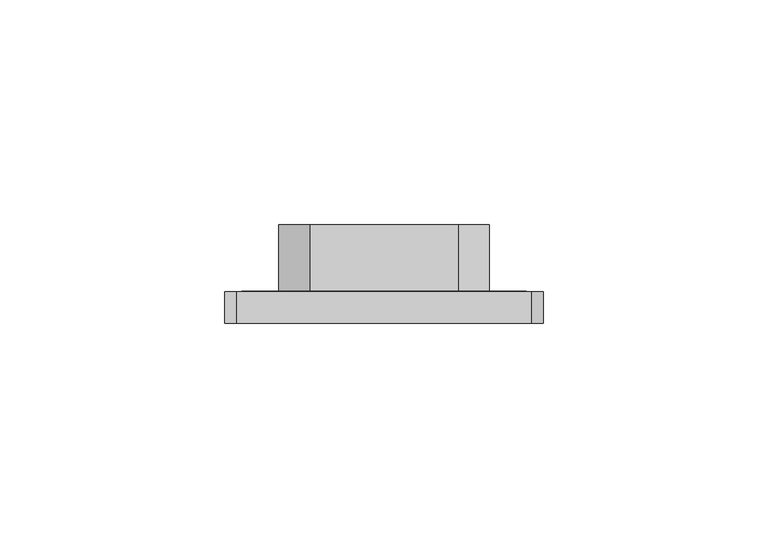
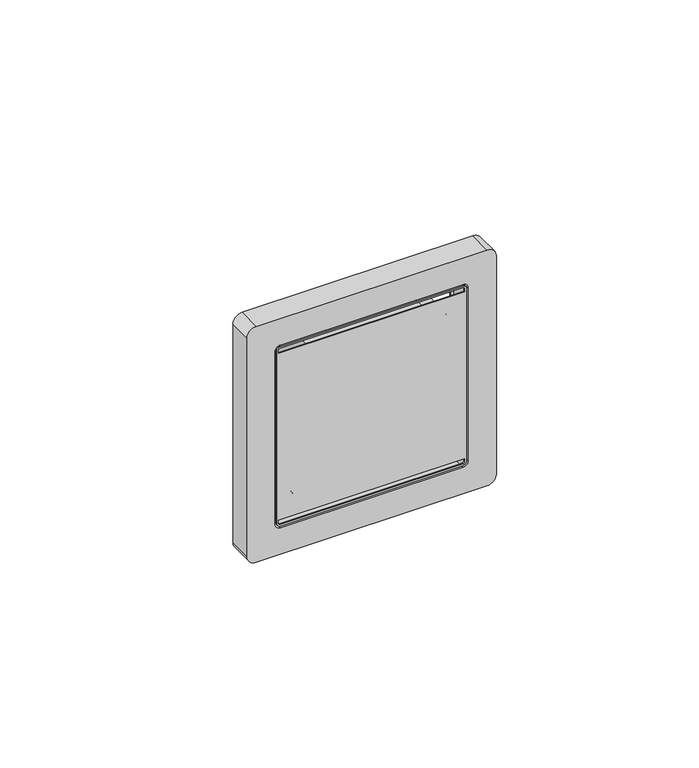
"""IFC4 building model written with IfcOpenShell, lengths in millimetres: proxy geometry, KNX AQS-TH-UP gl : KNX AQS/TH-UP gl, reinweiß RAL 9010."""

from ifc_helpers import new_model, si_unit, point, frame, frame_2d, origin, place, context, project, spatial, polyline, circle_curve, trimmed, segment, composite_curve, outline, extrude, source, transform, mapped, element, save


def electrical_fixtures_9fe67a85(model_context):
    return source(origin(), model_context, "Body", "SweptSolid", [
        extrude(outline(composite_curve([segment(trimmed(circle_curve(frame_2d((68.3993065, -32.8993065)), 2.6006935), [point((71.0, -32.8993065))], [point((68.3993065, -35.5))], False, "CARTESIAN"), True, "CONTINUOUS"), segment(polyline([(68.3993065, -35.5), (2.6006935, -35.5)]), True, "CONTINUOUS"), segment(trimmed(circle_curve(frame_2d((2.6006935, -32.8993065)), 2.6006935), [point((2.6006935, -35.5))], [point((0.0, -32.8993065))], False, "CARTESIAN"), True, "CONTINUOUS"), segment(polyline([(0.0, -32.8993065), (0.0, 32.8993065)]), True, "CONTINUOUS"), segment(trimmed(circle_curve(frame_2d((2.6006935, 32.8993065)), 2.6006935), [point((0.0, 32.8993065))], [point((2.6006935, 35.5))], False, "CARTESIAN"), True, "CONTINUOUS"), segment(polyline([(2.6006935, 35.5), (68.3993065, 35.5)]), True, "CONTINUOUS"), segment(trimmed(circle_curve(frame_2d((68.3993065, 32.8993065)), 2.6006935), [point((68.3993065, 35.5))], [point((71.0, 32.8993065))], False, "CARTESIAN"), True, "CONTINUOUS"), segment(polyline([(71.0, 32.8993065), (71.0, -32.8993065)]), True, "CONTINUOUS")], self_intersect=False), holes=[composite_curve([segment(polyline([(63.0, -25.9768966), (63.0, 25.9768966)]), True, "CONTINUOUS"), segment(trimmed(circle_curve(frame_2d((61.4768966, 25.9768966)), 1.5231034), [point((63.0, 25.9768966))], [point((61.4768966, 27.5))], True, "CARTESIAN"), True, "CONTINUOUS"), segment(polyline([(61.4768966, 27.5), (9.5231034, 27.5)]), True, "CONTINUOUS"), segment(trimmed(circle_curve(frame_2d((9.5231034, 25.9768966)), 1.5231034), [point((9.5231034, 27.5))], [point((8.0, 25.9768966))], True, "CARTESIAN"), True, "CONTINUOUS"), segment(polyline([(8.0, 25.9768966), (8.0, -25.9768966)]), True, "CONTINUOUS"), segment(trimmed(circle_curve(frame_2d((9.5231034, -25.9768966)), 1.5231034), [point((8.0, -25.9768966))], [point((9.5231034, -27.5))], True, "CARTESIAN"), True, "CONTINUOUS"), segment(polyline([(9.5231034, -27.5), (61.4768966, -27.5)]), True, "CONTINUOUS"), segment(trimmed(circle_curve(frame_2d((61.4768966, -25.9768966)), 1.5231034), [point((61.4768966, -27.5))], [point((63.0, -25.9768966))], True, "CARTESIAN"), True, "CONTINUOUS")], self_intersect=False)]), frame((0.0, -7.0, 0.0), z_axis=(0.0, 1.0, 0.0), x_axis=(0.0, 0.0, 1.0)), (0.0, 0.0, 1.0), 7.0),
        extrude(outline(polyline([(67.2, -27.5), (63.0, -31.7), (8.0, -31.7), (3.8, -27.5494118), (3.8, 27.5494118), (8.0, 31.7), (63.0, 31.7), (67.2, 27.5), (67.2, -27.5)]), holes=[polyline([(62.0, -22.0), (62.0, 22.0), (57.5323443, 26.5), (13.4676557, 26.5), (9.0, 22.0), (9.0, -22.0), (13.4676557, -26.5), (57.5323443, -26.5), (62.0, -22.0)])]), frame((0.0, 0.0, 0.0), z_axis=(0.0, 1.0, 0.0), x_axis=(0.0, 0.0, 1.0)), (0.0, 0.0, 1.0), 0.2),
        extrude(outline(composite_curve([segment(polyline([(20.35, 23.4), (50.65, 23.4)]), True, "CONTINUOUS"), segment(trimmed(circle_curve(frame_2d((50.65, 16.5176557)), 6.8823443), [point((50.65, 23.4))], [point((57.5323443, 16.5176557))], False, "CARTESIAN"), True, "CONTINUOUS"), segment(polyline([(57.5323443, 16.5176557), (57.5323443, -16.5176557)]), True, "CONTINUOUS"), segment(trimmed(circle_curve(frame_2d((50.65, -16.5176557)), 6.8823443), [point((57.5323443, -16.5176557))], [point((50.65, -23.4))], False, "CARTESIAN"), True, "CONTINUOUS"), segment(polyline([(50.65, -23.4), (20.35, -23.4)]), True, "CONTINUOUS"), segment(trimmed(circle_curve(frame_2d((20.35, -16.5176557)), 6.8823443), [point((20.35, -23.4))], [point((13.4676557, -16.5176557))], False, "CARTESIAN"), True, "CONTINUOUS"), segment(polyline([(13.4676557, -16.5176557), (13.4676557, 16.5176557)]), True, "CONTINUOUS"), segment(trimmed(circle_curve(frame_2d((20.35, 16.5176557)), 6.8823443), [point((13.4676557, 16.5176557))], [point((20.35, 23.4))], False, "CARTESIAN"), True, "CONTINUOUS")], self_intersect=False)), frame((0.0, -6.6, 0.0), z_axis=(0.0, 1.0, 0.0), x_axis=(0.0, 0.0, 1.0)), (0.0, 0.0, 1.0), 21.6),
        extrude(outline(composite_curve([segment(polyline([(62.5, 25.9768966), (62.5, -25.9768966)]), True, "CONTINUOUS"), segment(trimmed(circle_curve(frame_2d((61.4768966, -25.9768966)), 1.0231034), [point((62.5, -25.9768966))], [point((61.4768966, -27.0))], False, "CARTESIAN"), True, "CONTINUOUS"), segment(polyline([(61.4768966, -27.0), (9.5231034, -27.0)]), True, "CONTINUOUS"), segment(trimmed(circle_curve(frame_2d((9.5231034, -25.9768966)), 1.0231034), [point((9.5231034, -27.0))], [point((8.5, -25.9768966))], False, "CARTESIAN"), True, "CONTINUOUS"), segment(polyline([(8.5, -25.9768966), (8.5, 25.9768966)]), True, "CONTINUOUS"), segment(trimmed(circle_curve(frame_2d((9.5231034, 25.9768966)), 1.0231034), [point((8.5, 25.9768966))], [point((9.5231034, 27.0))], False, "CARTESIAN"), True, "CONTINUOUS"), segment(polyline([(9.5231034, 27.0), (61.4768966, 27.0)]), True, "CONTINUOUS"), segment(trimmed(circle_curve(frame_2d((61.4768966, 25.9768966)), 1.0231034), [point((61.4768966, 27.0))], [point((62.5, 25.9768966))], False, "CARTESIAN"), True, "CONTINUOUS")], self_intersect=False), holes=[composite_curve([segment(trimmed(circle_curve(frame_2d((61.4768966, -25.9768966)), 0.5231034), [point((61.4768966, -26.5))], [point((62.0, -25.9768966))], True, "CARTESIAN"), True, "CONTINUOUS"), segment(polyline([(62.0, -25.9768966), (62.0, 25.9768966)]), True, "CONTINUOUS"), segment(trimmed(circle_curve(frame_2d((61.4768966, 25.9768966)), 0.5231034), [point((62.0, 25.9768966))], [point((61.4768966, 26.5))], True, "CARTESIAN"), True, "CONTINUOUS"), segment(polyline([(61.4768966, 26.5), (60.65, 26.5), (60.65, -26.5), (61.4768966, -26.5)]), True, "CONTINUOUS")], self_intersect=False), composite_curve([segment(polyline([(9.0, 25.9768966), (9.0, -25.9768966)]), True, "CONTINUOUS"), segment(trimmed(circle_curve(frame_2d((9.5231034, -25.9768966)), 0.5231034), [point((9.0, -25.9768966))], [point((9.5231034, -26.5))], True, "CARTESIAN"), True, "CONTINUOUS"), segment(polyline([(9.5231034, -26.5), (10.35, -26.5), (10.35, 26.5), (9.5231034, 26.5)]), True, "CONTINUOUS"), segment(trimmed(circle_curve(frame_2d((9.5231034, 25.9768966)), 0.5231034), [point((9.5231034, 26.5))], [point((9.0, 25.9768966))], True, "CARTESIAN"), True, "CONTINUOUS")], self_intersect=False)]), frame((0.0, -7.0, 0.0), z_axis=(0.0, 1.0, 0.0), x_axis=(0.0, 0.0, 1.0)), (0.0, 0.0, 1.0), 0.4),
    ])


if __name__ == "__main__":
    model = new_model("IFC4")
    model_context = context("Model", 3, world=origin())
    ifc_project = project(units=[si_unit("LENGTHUNIT", "METRE", prefix="MILLI")], contexts=[model_context])
    site = spatial("IfcSite", under=ifc_project)
    building = spatial("IfcBuilding", under=site)
    placement = place(None, origin())
    electrical_fixtures_shape = electrical_fixtures_9fe67a85(model_context)
    element("IfcBuildingElementProxy", 1, Name="KNX AQS-TH-UP gl : KNX AQS/TH-UP gl, reinweiß RAL 9010", ObjectType="KNX AQS-TH-UP gl : KNX AQS/TH-UP gl, reinweiß RAL 9010", at=placement, inside=building, context=model_context, shape_type="MappedRepresentation", body=[
        mapped(electrical_fixtures_shape, transform((0.0, 0.0, 0.0), x_axis=(1.0, 0.0, 0.0), y_axis=(0.0, 1.0, 0.0), z_axis=(0.0, 0.0, 1.0))),
    ])
    save(model, "model.ifc")
